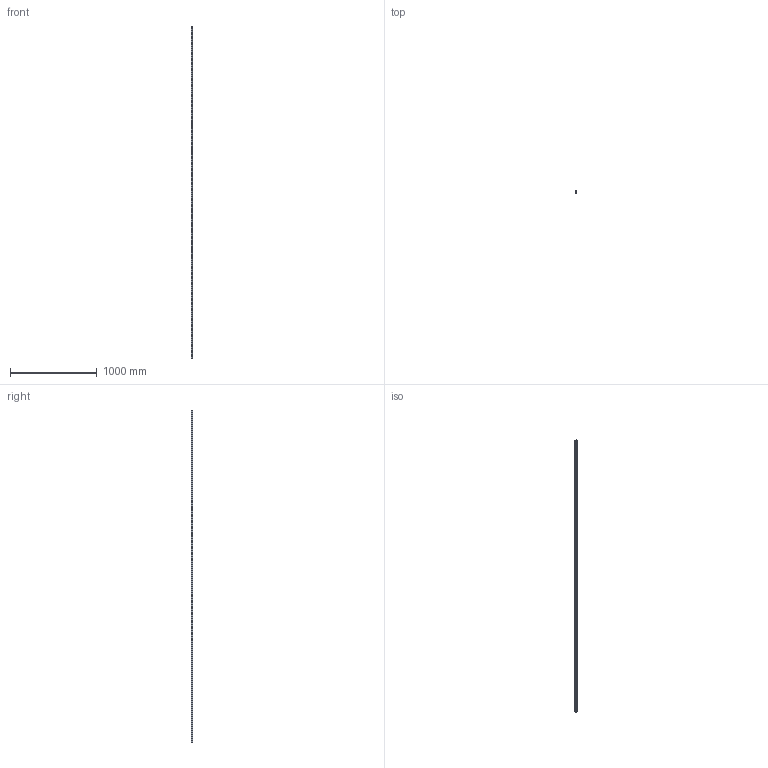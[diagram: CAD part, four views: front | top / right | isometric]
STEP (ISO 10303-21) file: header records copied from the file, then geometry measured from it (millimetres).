
FILE_DESCRIPTION (( 'STEP AP203' ), '1' );
FILE_NAME ('L1016.BL25-3820.step', '2019-06-12T12:16:52', ( '' ), ( '' ), 'SwSTEP 2.0', 'SolidWorks 2017', '' );
FILE_SCHEMA (( 'CONFIG_CONTROL_DESIGN' ));
Length unit declared in the file: millimetre
Products named in the file (1): L1016.BL25-3820
Bounding box: 23 x 19.2 x 3820 mm (x, y, z)
Volume: 1407837.8 mm3; surface area: 361166.4 mm2
Topology: 1 solids, 1 shells, 346 faces, 840 edges, 560 vertices
Faces by surface type: cylinder 260, plane 86
Entity records: 10757 total; most frequent: DIRECTION 2054, CARTESIAN_POINT 1747, ORIENTED_EDGE 1680, AXIS2_PLACEMENT_3D 867, EDGE_CURVE 840, VERTEX_POINT 560, EDGE_LOOP 538, CIRCLE 520
